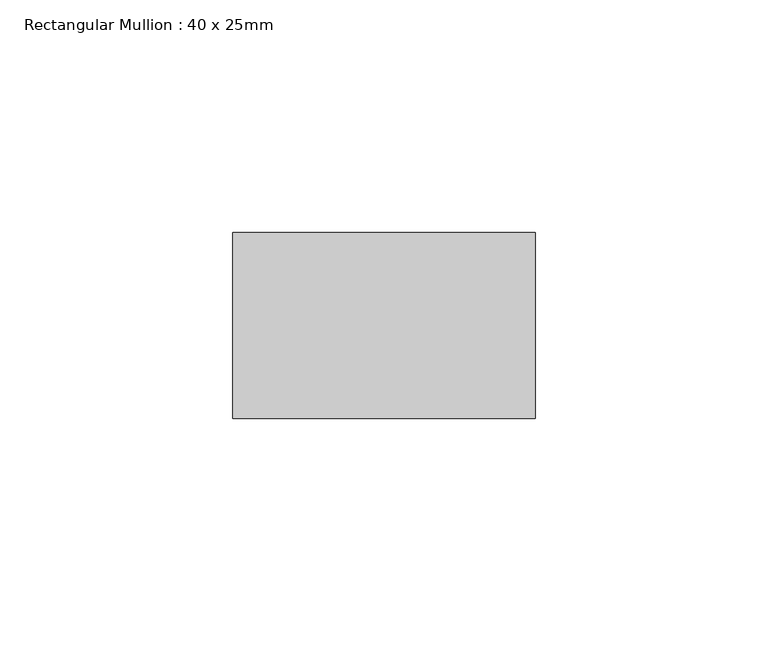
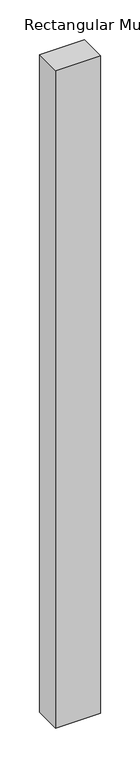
"""IFC4 building model written with IfcOpenShell, lengths in millimetres: member geometry, Rectangular Mullion : 40 x 25mm."""

from ifc_helpers import new_model, si_unit, frame, origin, place, context, project, spatial, polyline, outline, extrude, source, transform, mapped, element, save


def rectangular_mullion_40_x_25mm_f92fd0e2(model_context):
    return source(origin(), model_context, "Body", "SweptSolid", [
        extrude(outline(polyline([(0.0, -20.0), (0.0, -60.0), (-65.0, -60.0), (-65.0, -20.0), (0.0, -20.0)])), frame((0.0, 0.0, -1007.878819), z_axis=(0.0, 0.0, 1.0), x_axis=(1.0, 0.0, 0.0)), (0.0, 0.0, 1.0), 1007.878819),
    ])


if __name__ == "__main__":
    model = new_model("IFC4")
    model_context = context("Model", 3, world=origin())
    ifc_project = project(units=[si_unit("LENGTHUNIT", "METRE", prefix="MILLI")], contexts=[model_context])
    site = spatial("IfcSite", under=ifc_project)
    building = spatial("IfcBuilding", under=site)
    placement = place(None, origin())
    rectangular_mullion_40_x_25mm_shape = rectangular_mullion_40_x_25mm_f92fd0e2(model_context)
    element("IfcMember", 1, ObjectType="Rectangular Mullion : 40 x 25mm", at=placement, inside=building, context=model_context, shape_type="MappedRepresentation", body=[
        mapped(rectangular_mullion_40_x_25mm_shape, transform((0.0, 0.0, 0.0), x_axis=(1.0, 0.0, 0.0), y_axis=(0.0, 1.0, 0.0), z_axis=(0.0, 0.0, 1.0))),
    ])
    save(model, "model.ifc")
